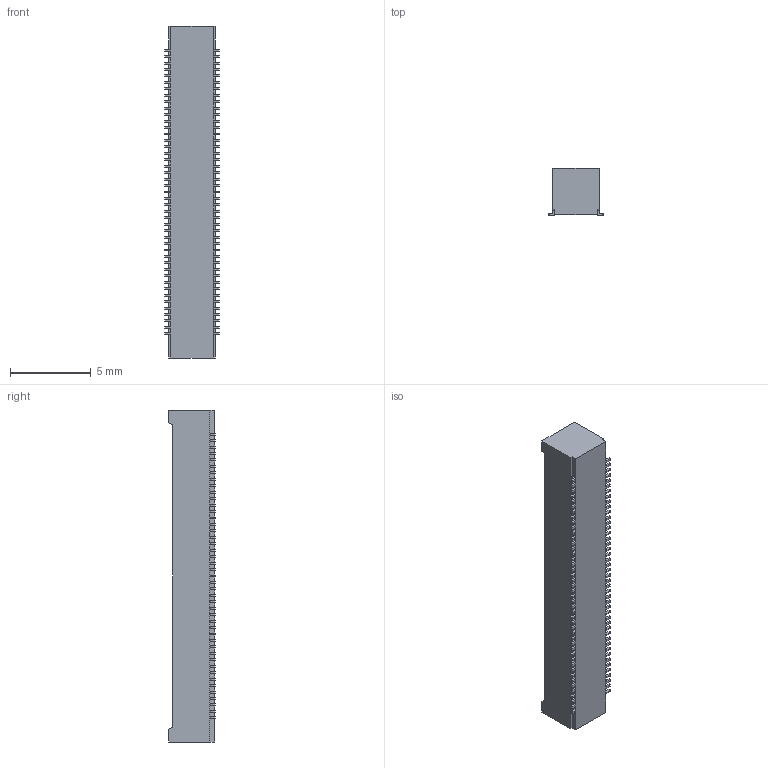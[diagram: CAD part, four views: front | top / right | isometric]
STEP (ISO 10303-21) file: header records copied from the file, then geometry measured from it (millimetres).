
FILE_DESCRIPTION (( 'STEP AP203' ), '1' );
FILE_NAME ('HC-PBB40C-90DS-0.4V-2.9-06 (0.4 邧羞 泂え 譫釱 BTB-HCTL).STEP', '2026-01-23T08:46:09', ( '' ), ( '' ), 'SwSTEP 2.0', 'SolidWorks 2025', '' );
FILE_SCHEMA (( 'CONFIG_CONTROL_DESIGN' ));
Length unit declared in the file: millimetre
Products named in the file (1): HC-PBB40C-90DS-0.4V-2.9-06 (0.4 双槽 贴片 母座 BTB-HCTL)
Bounding box: 3.38 x 2.9 x 20.6 mm (x, y, z)
Volume: 131.6 mm3; surface area: 368.5 mm2
Topology: 1 solids, 1 shells, 1900 faces, 5397 edges, 3590 vertices
Faces by surface type: plane 1315, cylinder 585
Entity records: 61596 total; most frequent: CARTESIAN_POINT 10888, ORIENTED_EDGE 10794, DIRECTION 10369, EDGE_CURVE 5397, LINE 4227, VECTOR 4227, VERTEX_POINT 3590, AXIS2_PLACEMENT_3D 3071
